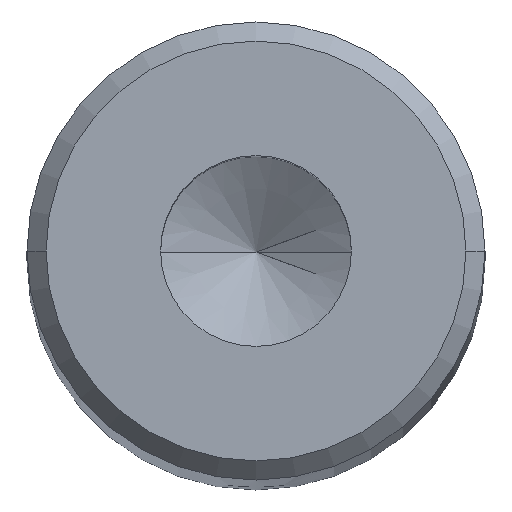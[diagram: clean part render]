
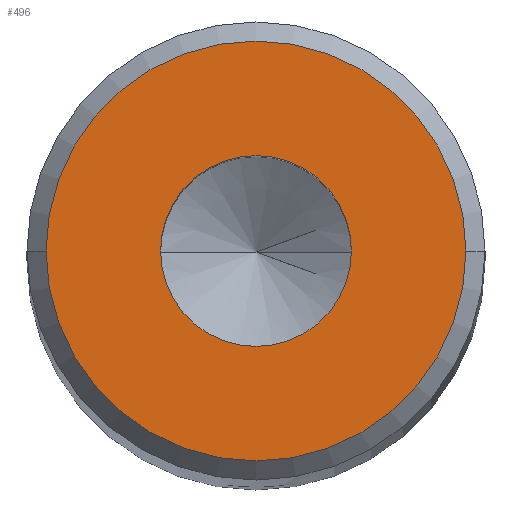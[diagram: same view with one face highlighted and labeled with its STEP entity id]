
A CAD part, top view. The second image highlights one B-rep face of the part: STEP entity #496.
In plain terms, the highlighted planar face has unit normal (0, 0, 1).
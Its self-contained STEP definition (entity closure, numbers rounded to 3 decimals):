
#14 = DIRECTION ( 'NONE',  ( 1., 0., 0. ) ) ;
#18 = DIRECTION ( 'NONE',  ( 0., 0., 1. ) ) ;
#59 = CARTESIAN_POINT ( 'NONE',  ( 0., 0., 150. ) ) ;
#80 = CIRCLE ( 'NONE', #123, 5.5 ) ;
#99 = ORIENTED_EDGE ( 'NONE', *, *, #468, .T. ) ;
#103 = DIRECTION ( 'NONE',  ( 0., 0., 1. ) ) ;
#107 = DIRECTION ( 'NONE',  ( 0., 0., 1. ) ) ;
#112 = DIRECTION ( 'NONE',  ( 0., 0., 1. ) ) ;
#116 = CARTESIAN_POINT ( 'NONE',  ( 5.5, 0., 150. ) ) ;
#123 = AXIS2_PLACEMENT_3D ( 'NONE', #567, #18, #340 ) ;
#138 = AXIS2_PLACEMENT_3D ( 'NONE', #59, #103, #242 ) ;
#155 = CARTESIAN_POINT ( 'NONE',  ( -2.5, 0., 150. ) ) ;
#171 = CIRCLE ( 'NONE', #174, 2.5 ) ;
#174 = AXIS2_PLACEMENT_3D ( 'NONE', #471, #107, #14 ) ;
#178 = EDGE_LOOP ( 'NONE', ( #316, #99 ) ) ;
#187 = VERTEX_POINT ( 'NONE', #116 ) ;
#204 = DIRECTION ( 'NONE',  ( 1., 0., 0. ) ) ;
#211 = DIRECTION ( 'NONE',  ( 1., 0., 0. ) ) ;
#212 = DIRECTION ( 'NONE',  ( 0., 0., 1. ) ) ;
#242 = DIRECTION ( 'NONE',  ( 1., 0., 0. ) ) ;
#245 = CARTESIAN_POINT ( 'NONE',  ( 0., 0., 150. ) ) ;
#257 = CARTESIAN_POINT ( 'NONE',  ( 0., 0., 150. ) ) ;
#284 = CIRCLE ( 'NONE', #359, 2.5 ) ;
#309 = CIRCLE ( 'NONE', #138, 5.5 ) ;
#316 = ORIENTED_EDGE ( 'NONE', *, *, #363, .T. ) ;
#340 = DIRECTION ( 'NONE',  ( 1., 0., 0. ) ) ;
#343 = PLANE ( 'NONE',  #587 ) ;
#359 = AXIS2_PLACEMENT_3D ( 'NONE', #257, #212, #211 ) ;
#363 = EDGE_CURVE ( 'NONE', #599, #187, #309, .T. ) ;
#370 = FACE_OUTER_BOUND ( 'NONE', #178, .T. ) ;
#405 = FACE_BOUND ( 'NONE', #417, .T. ) ;
#408 = CARTESIAN_POINT ( 'NONE',  ( -5.5, 0., 150. ) ) ;
#417 = EDGE_LOOP ( 'NONE', ( #522, #562 ) ) ;
#429 = VERTEX_POINT ( 'NONE', #532 ) ;
#468 = EDGE_CURVE ( 'NONE', #187, #599, #80, .T. ) ;
#471 = CARTESIAN_POINT ( 'NONE',  ( 0., 0., 150. ) ) ;
#496 = ADVANCED_FACE ( 'NONE', ( #405, #370 ), #343, .T. ) ;
#514 = EDGE_CURVE ( 'NONE', #429, #542, #171, .T. ) ;
#522 = ORIENTED_EDGE ( 'NONE', *, *, #514, .F. ) ;
#532 = CARTESIAN_POINT ( 'NONE',  ( 2.5, 0., 150. ) ) ;
#542 = VERTEX_POINT ( 'NONE', #155 ) ;
#562 = ORIENTED_EDGE ( 'NONE', *, *, #590, .F. ) ;
#567 = CARTESIAN_POINT ( 'NONE',  ( 0., 0., 150. ) ) ;
#587 = AXIS2_PLACEMENT_3D ( 'NONE', #245, #112, #204 ) ;
#590 = EDGE_CURVE ( 'NONE', #542, #429, #284, .T. ) ;
#599 = VERTEX_POINT ( 'NONE', #408 ) ;
